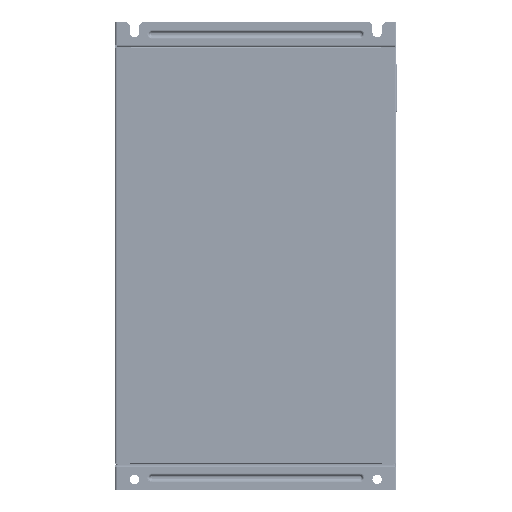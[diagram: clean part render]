
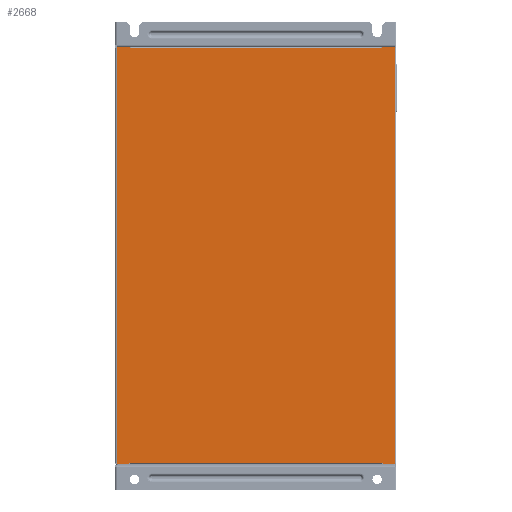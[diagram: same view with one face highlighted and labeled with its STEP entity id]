
A CAD part, front view. The second image highlights one B-rep face of the part: STEP entity #2668.
In plain terms, the highlighted planar face has unit normal (0, -1, 0).
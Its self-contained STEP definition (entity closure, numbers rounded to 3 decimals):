
#897=DIRECTION('',(0.,0.,1.));
#898=VECTOR('',#897,1.6);
#899=CARTESIAN_POINT('',(-163.4,0.,-490.4));
#900=LINE('',#899,#898);
#901=DIRECTION('',(0.,0.,1.));
#902=VECTOR('',#901,1.6);
#903=CARTESIAN_POINT('',(-163.4,0.,-1.6));
#904=LINE('',#903,#902);
#905=DIRECTION('',(1.,0.,0.));
#906=VECTOR('',#905,15.1);
#907=CARTESIAN_POINT('',(-163.4,0.,0.));
#908=LINE('',#907,#906);
#909=DIRECTION('',(0.,0.,-1.));
#910=VECTOR('',#909,1.6);
#911=CARTESIAN_POINT('',(-148.3,0.,0.));
#912=LINE('',#911,#910);
#913=DIRECTION('',(1.,0.,0.));
#914=VECTOR('',#913,15.1);
#915=CARTESIAN_POINT('',(148.3,0.,0.));
#916=LINE('',#915,#914);
#917=DIRECTION('',(0.,0.,-1.));
#918=VECTOR('',#917,1.6);
#919=CARTESIAN_POINT('',(163.4,0.,0.));
#920=LINE('',#919,#918);
#921=DIRECTION('',(0.,0.,1.));
#922=VECTOR('',#921,1.6);
#923=CARTESIAN_POINT('',(149.4,0.,-490.4));
#924=LINE('',#923,#922);
#929=DIRECTION('',(0.,0.,1.));
#930=VECTOR('',#929,1.6);
#931=CARTESIAN_POINT('',(-149.4,0.,-490.4));
#932=LINE('',#931,#930);
#981=DIRECTION('',(1.,0.,0.));
#982=VECTOR('',#981,1.6);
#983=CARTESIAN_POINT('',(-149.4,0.,-488.8));
#984=LINE('',#983,#982);
#998=DIRECTION('',(1.,0.,0.));
#999=VECTOR('',#998,295.6);
#1000=CARTESIAN_POINT('',(-147.8,0.,-488.8));
#1001=LINE('',#1000,#999);
#1079=DIRECTION('',(1.,0.,0.));
#1080=VECTOR('',#1079,1.6);
#1081=CARTESIAN_POINT('',(147.8,0.,-488.8));
#1082=LINE('',#1081,#1080);
#1095=DIRECTION('',(1.,0.,0.));
#1096=VECTOR('',#1095,14.);
#1097=CARTESIAN_POINT('',(149.4,0.,-490.4));
#1098=LINE('',#1097,#1096);
#1103=DIRECTION('',(0.,0.,1.));
#1104=VECTOR('',#1103,1.6);
#1105=CARTESIAN_POINT('',(163.4,0.,-490.4));
#1106=LINE('',#1105,#1104);
#1120=DIRECTION('',(0.,0.,1.));
#1121=VECTOR('',#1120,487.2);
#1122=CARTESIAN_POINT('',(163.4,0.,-488.8));
#1123=LINE('',#1122,#1121);
#1573=DIRECTION('',(0.,0.,-1.));
#1574=VECTOR('',#1573,1.6);
#1575=CARTESIAN_POINT('',(148.3,0.,0.));
#1576=LINE('',#1575,#1574);
#1581=DIRECTION('',(-1.,0.,0.));
#1582=VECTOR('',#1581,1.6);
#1583=CARTESIAN_POINT('',(148.3,0.,-1.6));
#1584=LINE('',#1583,#1582);
#1602=DIRECTION('',(-1.,0.,0.));
#1603=VECTOR('',#1602,293.4);
#1604=CARTESIAN_POINT('',(146.7,0.,-1.6));
#1605=LINE('',#1604,#1603);
#1731=DIRECTION('',(-1.,0.,0.));
#1732=VECTOR('',#1731,1.6);
#1733=CARTESIAN_POINT('',(-146.7,0.,-1.6));
#1734=LINE('',#1733,#1732);
#2068=DIRECTION('',(0.,0.,-1.));
#2069=VECTOR('',#2068,487.2);
#2070=CARTESIAN_POINT('',(-163.4,0.,-1.6));
#2071=LINE('',#2070,#2069);
#2080=DIRECTION('',(1.,0.,0.));
#2081=VECTOR('',#2080,14.);
#2082=CARTESIAN_POINT('',(-163.4,0.,-490.4));
#2083=LINE('',#2082,#2081);
#2144=CARTESIAN_POINT('',(-163.4,0.,-1.6));
#2145=VERTEX_POINT('',#2144);
#2146=CARTESIAN_POINT('',(-163.4,0.,0.));
#2147=VERTEX_POINT('',#2146);
#2150=CARTESIAN_POINT('',(-149.4,0.,-490.4));
#2151=CARTESIAN_POINT('',(-149.4,0.,-488.8));
#2152=VERTEX_POINT('',#2150);
#2153=VERTEX_POINT('',#2151);
#2154=CARTESIAN_POINT('',(-163.4,0.,-490.4));
#2155=VERTEX_POINT('',#2154);
#2156=CARTESIAN_POINT('',(-163.4,0.,-488.8));
#2157=VERTEX_POINT('',#2156);
#2158=CARTESIAN_POINT('',(-148.3,0.,0.));
#2159=VERTEX_POINT('',#2158);
#2160=CARTESIAN_POINT('',(-148.3,0.,-1.6));
#2161=VERTEX_POINT('',#2160);
#2162=CARTESIAN_POINT('',(-146.7,0.,-1.6));
#2163=VERTEX_POINT('',#2162);
#2164=CARTESIAN_POINT('',(146.7,0.,-1.6));
#2165=VERTEX_POINT('',#2164);
#2166=CARTESIAN_POINT('',(148.3,0.,-1.6));
#2167=VERTEX_POINT('',#2166);
#2168=CARTESIAN_POINT('',(148.3,0.,0.));
#2169=VERTEX_POINT('',#2168);
#2170=CARTESIAN_POINT('',(163.4,0.,0.));
#2171=VERTEX_POINT('',#2170);
#2172=CARTESIAN_POINT('',(163.4,0.,-1.6));
#2173=VERTEX_POINT('',#2172);
#2174=CARTESIAN_POINT('',(163.4,0.,-488.8));
#2175=VERTEX_POINT('',#2174);
#2176=CARTESIAN_POINT('',(163.4,0.,-490.4));
#2177=VERTEX_POINT('',#2176);
#2178=CARTESIAN_POINT('',(149.4,0.,-490.4));
#2179=VERTEX_POINT('',#2178);
#2180=CARTESIAN_POINT('',(149.4,0.,-488.8));
#2181=VERTEX_POINT('',#2180);
#2182=CARTESIAN_POINT('',(147.8,0.,-488.8));
#2183=VERTEX_POINT('',#2182);
#2184=CARTESIAN_POINT('',(-147.8,0.,-488.8));
#2185=VERTEX_POINT('',#2184);
#2622=CARTESIAN_POINT('',(-163.4,0.,0.));
#2623=DIRECTION('',(0.,-1.,0.));
#2624=DIRECTION('',(1.,0.,0.));
#2625=AXIS2_PLACEMENT_3D('',#2622,#2623,#2624);
#2626=PLANE('',#2625);
#2628=ORIENTED_EDGE('',*,*,#2627,.F.);
#2630=ORIENTED_EDGE('',*,*,#2629,.F.);
#2632=ORIENTED_EDGE('',*,*,#2631,.T.);
#2634=ORIENTED_EDGE('',*,*,#2633,.F.);
#2635=ORIENTED_EDGE('',*,*,#2612,.T.);
#2637=ORIENTED_EDGE('',*,*,#2636,.T.);
#2639=ORIENTED_EDGE('',*,*,#2638,.T.);
#2641=ORIENTED_EDGE('',*,*,#2640,.F.);
#2643=ORIENTED_EDGE('',*,*,#2642,.F.);
#2645=ORIENTED_EDGE('',*,*,#2644,.F.);
#2647=ORIENTED_EDGE('',*,*,#2646,.F.);
#2649=ORIENTED_EDGE('',*,*,#2648,.T.);
#2651=ORIENTED_EDGE('',*,*,#2650,.T.);
#2653=ORIENTED_EDGE('',*,*,#2652,.F.);
#2655=ORIENTED_EDGE('',*,*,#2654,.F.);
#2657=ORIENTED_EDGE('',*,*,#2656,.F.);
#2659=ORIENTED_EDGE('',*,*,#2658,.T.);
#2661=ORIENTED_EDGE('',*,*,#2660,.F.);
#2663=ORIENTED_EDGE('',*,*,#2662,.F.);
#2665=ORIENTED_EDGE('',*,*,#2664,.F.);
#2666=EDGE_LOOP('',(#2628,#2630,#2632,#2634,#2635,#2637,#2639,#2641,#2643,#2645,
#2647,#2649,#2651,#2653,#2655,#2657,#2659,#2661,#2663,#2665));
#2667=FACE_OUTER_BOUND('',#2666,.F.);
#2612=EDGE_CURVE('',#2145,#2147,#904,.T.);
#2627=EDGE_CURVE('',#2152,#2153,#932,.T.);
#2629=EDGE_CURVE('',#2155,#2152,#2083,.T.);
#2631=EDGE_CURVE('',#2155,#2157,#900,.T.);
#2633=EDGE_CURVE('',#2145,#2157,#2071,.T.);
#2636=EDGE_CURVE('',#2147,#2159,#908,.T.);
#2638=EDGE_CURVE('',#2159,#2161,#912,.T.);
#2640=EDGE_CURVE('',#2163,#2161,#1734,.T.);
#2642=EDGE_CURVE('',#2165,#2163,#1605,.T.);
#2644=EDGE_CURVE('',#2167,#2165,#1584,.T.);
#2646=EDGE_CURVE('',#2169,#2167,#1576,.T.);
#2648=EDGE_CURVE('',#2169,#2171,#916,.T.);
#2650=EDGE_CURVE('',#2171,#2173,#920,.T.);
#2652=EDGE_CURVE('',#2175,#2173,#1123,.T.);
#2654=EDGE_CURVE('',#2177,#2175,#1106,.T.);
#2656=EDGE_CURVE('',#2179,#2177,#1098,.T.);
#2658=EDGE_CURVE('',#2179,#2181,#924,.T.);
#2660=EDGE_CURVE('',#2183,#2181,#1082,.T.);
#2662=EDGE_CURVE('',#2185,#2183,#1001,.T.);
#2664=EDGE_CURVE('',#2153,#2185,#984,.T.);
#2668=ADVANCED_FACE('',(#2667),#2626,.T.);
